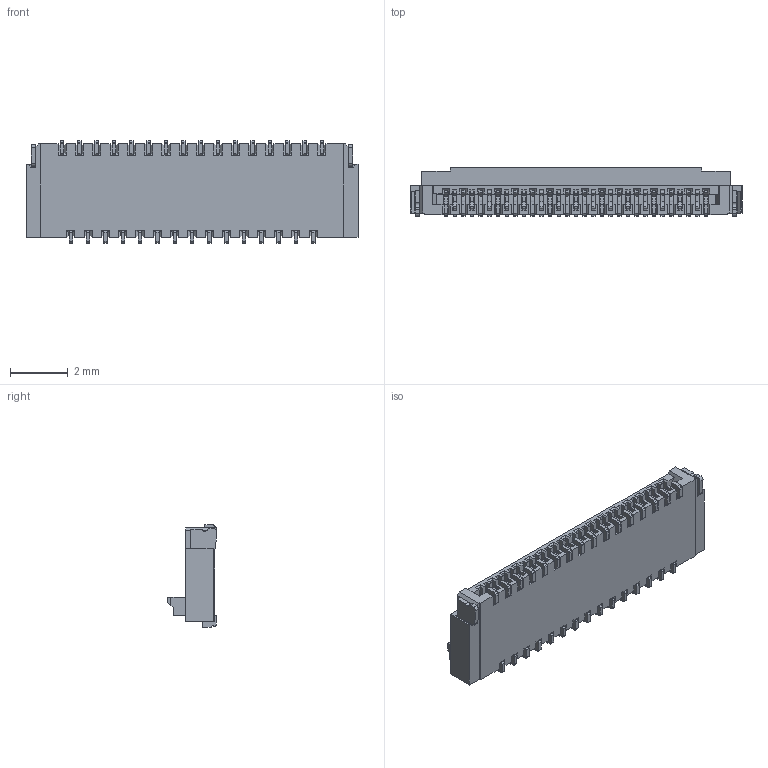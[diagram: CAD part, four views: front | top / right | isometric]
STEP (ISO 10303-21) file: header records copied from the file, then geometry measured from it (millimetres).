
FILE_DESCRIPTION (( 'STEP AP203' ), '1' );
FILE_NAME ('GT-F0301SR10-XXS0101.STEP', '2023-12-26T09:05:10', ( 'Microsoft' ), ( 'Microsoft' ), 'SwSTEP 2.0', 'SolidWorks 2023', '' );
FILE_SCHEMA (( 'CONFIG_CONTROL_DESIGN' ));
Products named in the file (1): GT-F0301SR10-XXS0101
Bounding box: 11.5 x 1.7 x 3.55 mm (x, y, z)
Volume: 27.4 mm3; surface area: 382 mm2
Topology: 35 solids, 35 shells, 3353 faces, 10005 edges, 6616 vertices
Faces by surface type: plane 2017, cylinder 1262, bspline 74
Entity records: 116541 total; most frequent: CARTESIAN_POINT 24466, ORIENTED_EDGE 20010, DIRECTION 18896, EDGE_CURVE 10005, VECTOR 7164, LINE 7164, VERTEX_POINT 6616, AXIS2_PLACEMENT_3D 5866
